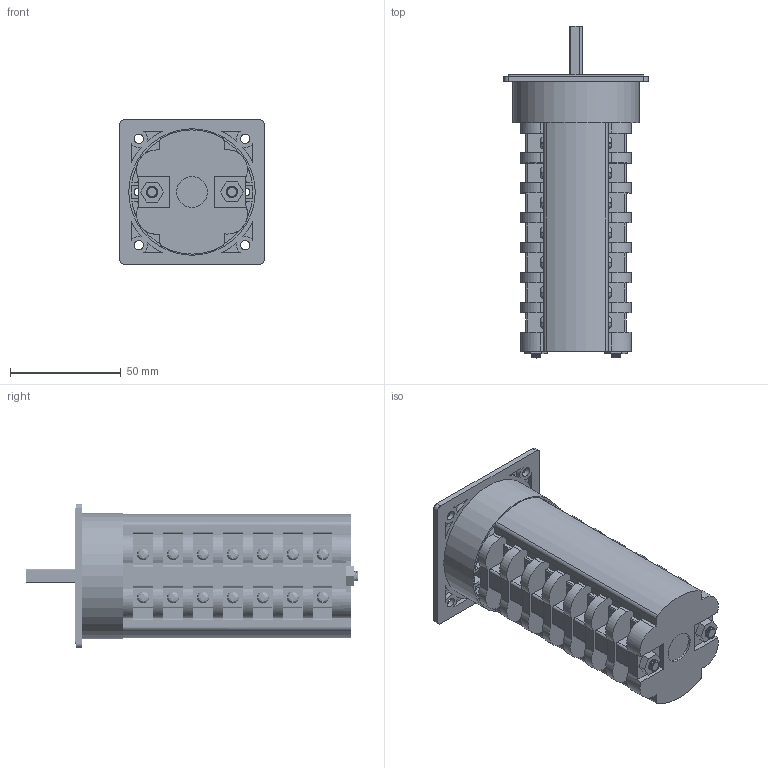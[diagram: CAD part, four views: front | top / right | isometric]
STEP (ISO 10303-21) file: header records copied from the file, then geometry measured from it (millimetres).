
FILE_DESCRIPTION(/* description */ (''),/* implementation_level */ '2;1');
FILE_NAME(/* name */ '4G16,25_standard_7_korpusow.stp',/* time_stamp */ '2021-07-21T13:57:41+02:00',/* author */ (''),/* organization */ (''),/* preprocessor_version */ 'ST-DEVELOPER v18.1',/* originating_system */ 'SIEMENS PLM Software NX 1965',/* authorisation */ '');
FILE_SCHEMA (('AUTOMOTIVE_DESIGN { 1 0 10303 214 3 1 1 1 }'));
Products named in the file (1): 4G16,25_standard_7_korpusow_stp
Bounding box: 65 x 149.7 x 65 mm (x, y, z)
Volume: 248505.4 mm3; surface area: 56970.5 mm2
Topology: 1 solids, 5 shells, 1510 faces, 4241 edges, 2803 vertices
Faces by surface type: plane 886, cylinder 421, bspline 146, cone 57
Full cylindrical faces by diameter (mm): 3.3 x3, 4 x4, 4.3 x4, 5 x2, 5.4 x28, 6.5 x2, 7.2 x4, 10 x1, 14 x1, 57 x1
Entity records: 140837 total; most frequent: CARTESIAN_POINT 103808, ORIENTED_EDGE 8176, DIRECTION 6933, EDGE_CURVE 4088, VERTEX_POINT 2734, AXIS2_PLACEMENT_3D 2471, LINE 1991, VECTOR 1991
